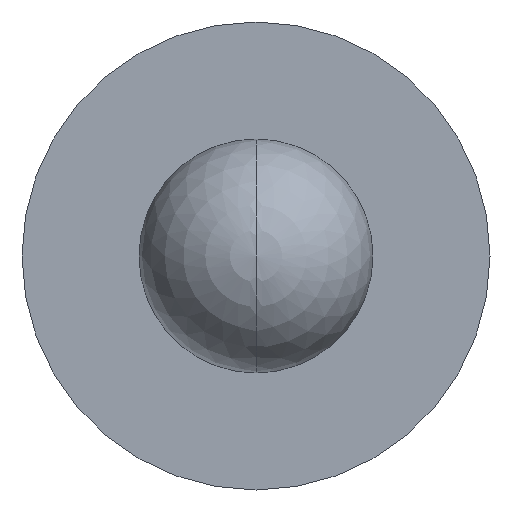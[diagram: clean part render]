
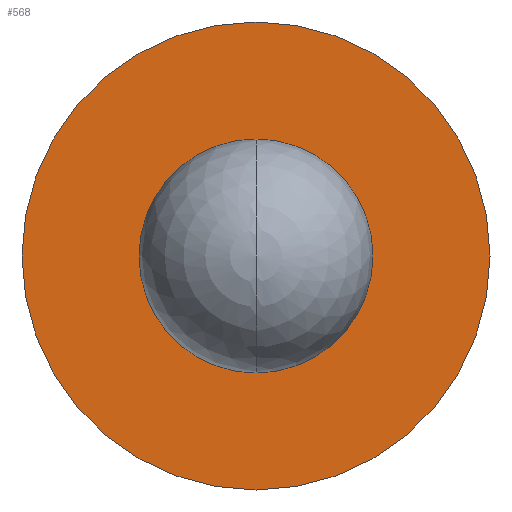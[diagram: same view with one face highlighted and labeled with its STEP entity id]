
A CAD part, front view. The second image highlights one B-rep face of the part: STEP entity #568.
In plain terms, the highlighted planar face has unit normal (0, -1, 0).
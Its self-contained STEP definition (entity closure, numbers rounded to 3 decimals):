
#87=CARTESIAN_POINT('',(0.,0.5,0.));
#88=DIRECTION('',(0.,1.,0.));
#89=DIRECTION('',(0.,0.,-1.));
#90=AXIS2_PLACEMENT_3D('',#87,#88,#89);
#95=CARTESIAN_POINT('',(0.,0.5,0.));
#96=DIRECTION('',(0.,-1.,0.));
#97=DIRECTION('',(0.,0.,-1.));
#98=AXIS2_PLACEMENT_3D('',#95,#96,#97);
#103=CARTESIAN_POINT('',(0.,0.5,0.));
#104=DIRECTION('',(0.,-1.,0.));
#105=DIRECTION('',(0.,0.,-1.));
#106=AXIS2_PLACEMENT_3D('',#103,#104,#105);
#125=CARTESIAN_POINT('',(0.,0.5,0.));
#126=DIRECTION('',(0.,1.,0.));
#127=DIRECTION('',(0.,0.,-1.));
#128=AXIS2_PLACEMENT_3D('',#125,#126,#127);
#443=CARTESIAN_POINT('',(0.,0.5,-0.45));
#444=VERTEX_POINT('',#443);
#445=CARTESIAN_POINT('',(0.,0.5,-0.9));
#447=VERTEX_POINT('',#445);
#473=CARTESIAN_POINT('',(0.,0.5,0.45));
#474=VERTEX_POINT('',#473);
#475=CARTESIAN_POINT('',(0.,0.5,0.9));
#477=VERTEX_POINT('',#475);
#553=CARTESIAN_POINT('',(0.,0.5,0.));
#554=DIRECTION('',(0.,-1.,0.));
#555=DIRECTION('',(0.,0.,1.));
#556=AXIS2_PLACEMENT_3D('',#553,#554,#555);
#557=PLANE('',#556);
#559=ORIENTED_EDGE('',*,*,#558,.F.);
#561=ORIENTED_EDGE('',*,*,#560,.T.);
#562=EDGE_LOOP('',(#559,#561));
#563=FACE_OUTER_BOUND('',#562,.F.);
#564=ORIENTED_EDGE('',*,*,#532,.F.);
#565=ORIENTED_EDGE('',*,*,#548,.T.);
#566=EDGE_LOOP('',(#564,#565));
#567=FACE_BOUND('',#566,.F.);
#568=ADVANCED_FACE('',(#563,#567),#557,.T.);
#91=CIRCLE('',#90,0.45);
#99=CIRCLE('',#98,0.45);
#107=CIRCLE('',#106,0.9);
#129=CIRCLE('',#128,0.9);
#532=EDGE_CURVE('',#444,#474,#91,.T.);
#548=EDGE_CURVE('',#444,#474,#99,.T.);
#558=EDGE_CURVE('',#447,#477,#107,.T.);
#560=EDGE_CURVE('',#447,#477,#129,.T.);
